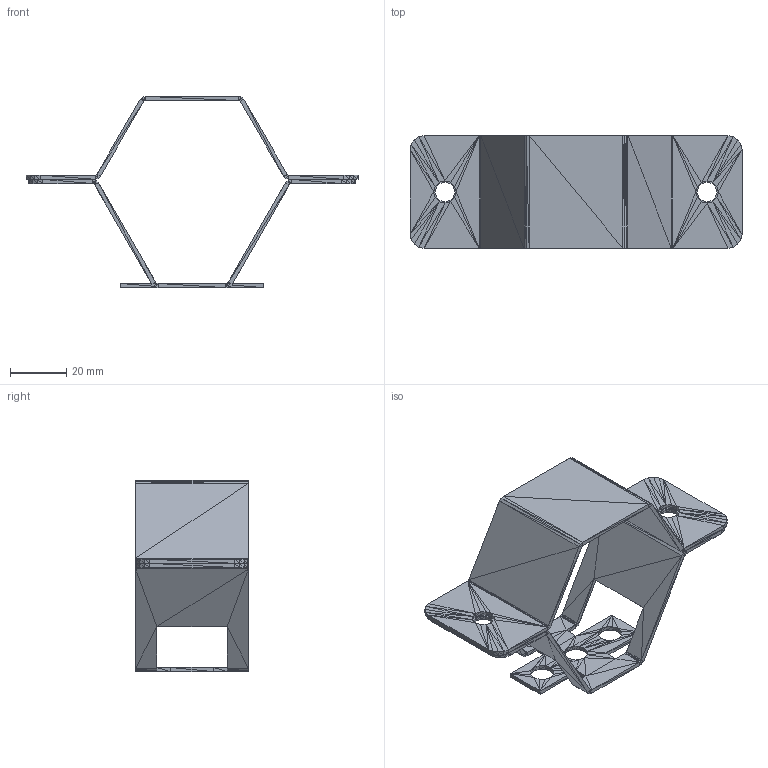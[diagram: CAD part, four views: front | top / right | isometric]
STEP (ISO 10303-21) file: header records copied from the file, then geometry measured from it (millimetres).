
FILE_DESCRIPTION((''),'2;1');
FILE_NAME('051100', '2026-04-09T08:49:46', (''), (''), 'ImageToStl.com STEP Converter','', '');
FILE_SCHEMA(('AUTOMOTIVE_DESIGN_CC2'));
Length unit declared in the file: metre
Products named in the file (1): product0
Bounding box: 118 x 40 x 68 mm (x, y, z)
Surface area: 24384.8 mm2 (no closed solid volume)
Topology: 0 solids, 868 shells, 868 faces, 2604 edges, 420 vertices
Faces by surface type: plane 868
Entity records: 19964 total; most frequent: DIRECTION 4342, ORIENTED_EDGE 2604, EDGE_CURVE 2604, LINE 2604, VECTOR 2604, AXIS2_PLACEMENT_3D 869, FACE_SURFACE 868, PLANE 868
